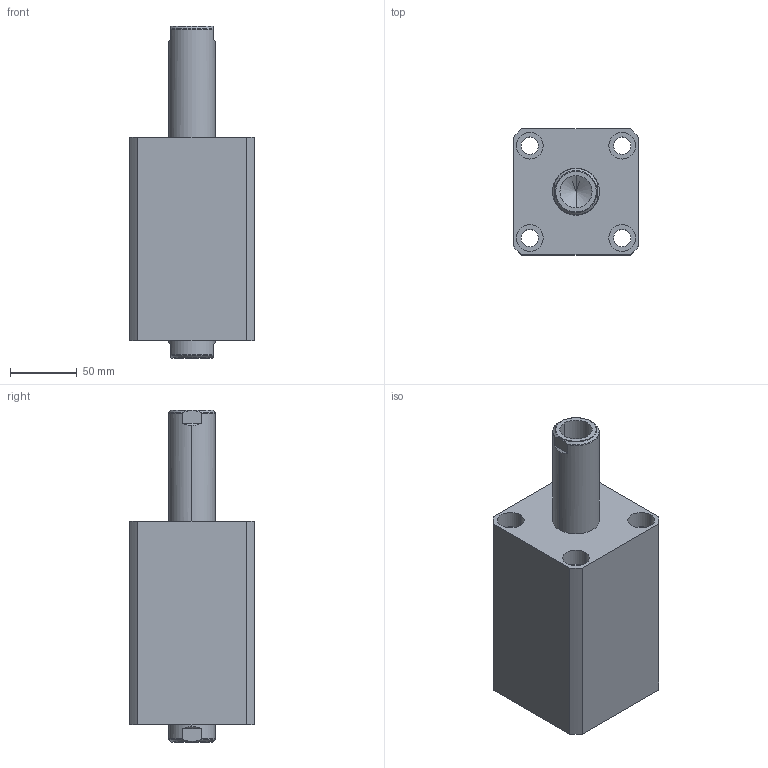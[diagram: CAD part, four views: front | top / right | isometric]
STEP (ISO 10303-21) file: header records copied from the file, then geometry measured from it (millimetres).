
FILE_DESCRIPTION (( 'STEP AP214' ), '1' );
FILE_NAME ('chtb-sw63x70n_asm.STEP', '2018-05-12T02:18:47', ( 'Windows' ), ( 'Microsoft' ), 'SwSTEP 2.0', 'SolidWorks 2015', '' );
FILE_SCHEMA (( 'AUTOMOTIVE_DESIGN' ));
Length unit declared in the file: millimetre
Products named in the file (4): CHTB-SW63X70NHSG; CHTB-SW63X70NBT; CHTB-63QG; chtb-sw63x70n_asm
Assembly tree (3 placements, depth 2):
  chtb-sw63x70n_asm
    CHTB-63QG
    CHTB-SW63X70NBT
    CHTB-SW63X70NHSG
Bounding box: 94 x 94 x 248 mm (x, y, z)
Volume: 1146560.5 mm3; surface area: 184994.5 mm2
Topology: 3 solids, 3 shells, 184 faces, 515 edges, 349 vertices
Faces by surface type: cylinder 106, plane 38, cone 16, bspline 12, torus 12
Entity records: 18385 total; most frequent: CARTESIAN_POINT 13775, ORIENTED_EDGE 1014, DIRECTION 814, EDGE_CURVE 507, VERTEX_POINT 349, AXIS2_PLACEMENT_3D 331, EDGE_LOOP 220, ADVANCED_FACE 184
